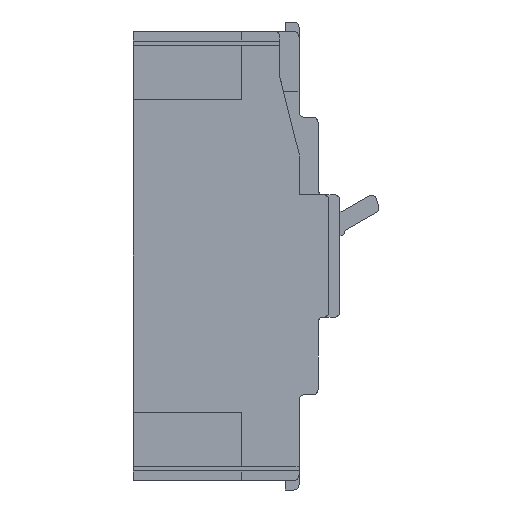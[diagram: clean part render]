
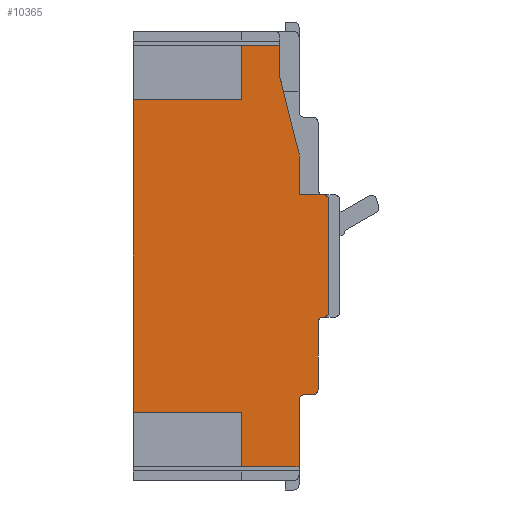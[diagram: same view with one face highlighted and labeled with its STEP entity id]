
A CAD part, left-side view. The second image highlights one B-rep face of the part: STEP entity #10365.
In plain terms, the highlighted planar face has unit normal (-1, 0, 0).
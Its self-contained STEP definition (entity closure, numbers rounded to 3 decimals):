
#44=CARTESIAN_POINT('',(-52.5,-39.5,-20.5));
#45=DIRECTION('',(-1.,0.,0.));
#46=DIRECTION('',(0.,0.,-1.));
#47=AXIS2_PLACEMENT_3D('',#44,#45,#46);
#49=DIRECTION('',(0.,0.,-1.));
#50=VECTOR('',#49,24.5);
#51=CARTESIAN_POINT('',(-52.5,-37.5,-24.5));
#52=LINE('',#51,#50);
#53=CARTESIAN_POINT('',(-52.5,-35.5,-49.));
#54=DIRECTION('',(-1.,0.,0.));
#55=DIRECTION('',(0.,0.,-1.));
#56=AXIS2_PLACEMENT_3D('',#53,#54,#55);
#58=DIRECTION('',(0.,1.,0.));
#59=VECTOR('',#58,3.);
#60=CARTESIAN_POINT('',(-52.5,-35.5,-51.));
#61=LINE('',#60,#59);
#62=DIRECTION('',(0.,0.,-1.));
#63=VECTOR('',#62,24.5);
#64=CARTESIAN_POINT('',(-52.5,-30.5,-53.));
#65=LINE('',#64,#63);
#66=DIRECTION('',(0.,-1.,0.));
#67=VECTOR('',#66,21.);
#68=CARTESIAN_POINT('',(-52.5,-9.5,-77.5));
#69=LINE('',#68,#67);
#70=DIRECTION('',(0.,0.,1.));
#71=VECTOR('',#70,20.);
#72=CARTESIAN_POINT('',(-52.5,-9.5,-77.5));
#73=LINE('',#72,#71);
#74=DIRECTION('',(0.,-1.,0.));
#75=VECTOR('',#74,40.);
#76=CARTESIAN_POINT('',(-52.5,30.5,-57.5));
#77=LINE('',#76,#75);
#78=DIRECTION('',(0.,0.,1.));
#79=VECTOR('',#78,115.);
#80=CARTESIAN_POINT('',(-52.5,30.5,-57.5));
#81=LINE('',#80,#79);
#82=DIRECTION('',(0.,-1.,0.));
#83=VECTOR('',#82,40.);
#84=CARTESIAN_POINT('',(-52.5,30.5,57.5));
#85=LINE('',#84,#83);
#86=DIRECTION('',(0.,0.,-1.));
#87=VECTOR('',#86,20.);
#88=CARTESIAN_POINT('',(-52.5,-9.5,77.5));
#89=LINE('',#88,#87);
#90=DIRECTION('',(0.,-1.,0.));
#91=VECTOR('',#90,14.);
#92=CARTESIAN_POINT('',(-52.5,-9.5,77.5));
#93=LINE('',#92,#91);
#94=DIRECTION('',(0.,0.,-1.));
#95=VECTOR('',#94,12.);
#96=CARTESIAN_POINT('',(-52.5,-23.5,77.5));
#97=LINE('',#96,#95);
#98=DIRECTION('',(0.,0.243,0.97));
#99=VECTOR('',#98,28.862);
#100=CARTESIAN_POINT('',(-52.5,-30.5,37.5));
#101=LINE('',#100,#99);
#102=DIRECTION('',(0.,0.,1.));
#103=VECTOR('',#102,15.);
#104=CARTESIAN_POINT('',(-52.5,-30.5,22.5));
#105=LINE('',#104,#103);
#106=CARTESIAN_POINT('',(-52.5,-39.5,20.5));
#107=DIRECTION('',(-1.,0.,0.));
#108=DIRECTION('',(0.,-1.,0.));
#109=AXIS2_PLACEMENT_3D('',#106,#107,#108);
#111=DIRECTION('',(0.,0.,-1.));
#112=VECTOR('',#111,41.);
#113=CARTESIAN_POINT('',(-52.5,-41.5,20.5));
#114=LINE('',#113,#112);
#2234=DIRECTION('',(0.,1.,0.));
#2235=VECTOR('',#2234,9.);
#2236=CARTESIAN_POINT('',(-52.5,-39.5,22.5));
#2237=LINE('',#2236,#2235);
#6873=CARTESIAN_POINT('',(-52.5,-39.5,-24.5));
#6874=DIRECTION('',(1.,0.,0.));
#6875=DIRECTION('',(0.,1.,0.));
#6876=AXIS2_PLACEMENT_3D('',#6873,#6874,#6875);
#7126=CARTESIAN_POINT('',(-52.5,-32.5,-53.));
#7127=DIRECTION('',(1.,0.,0.));
#7128=DIRECTION('',(0.,1.,0.));
#7129=AXIS2_PLACEMENT_3D('',#7126,#7127,#7128);
#8874=CARTESIAN_POINT('',(-52.5,-30.5,-77.5));
#8875=VERTEX_POINT('',#8874);
#9210=CARTESIAN_POINT('',(-52.5,-30.5,22.5));
#9211=VERTEX_POINT('',#9210);
#9212=CARTESIAN_POINT('',(-52.5,-30.5,37.5));
#9213=VERTEX_POINT('',#9212);
#9214=CARTESIAN_POINT('',(-52.5,-23.5,65.5));
#9216=VERTEX_POINT('',#9214);
#9218=CARTESIAN_POINT('',(-52.5,-23.5,77.5));
#9219=VERTEX_POINT('',#9218);
#9434=CARTESIAN_POINT('',(-52.5,-9.5,-57.5));
#9435=VERTEX_POINT('',#9434);
#9436=CARTESIAN_POINT('',(-52.5,-9.5,57.5));
#9437=VERTEX_POINT('',#9436);
#9438=CARTESIAN_POINT('',(-52.5,30.5,-57.5));
#9439=VERTEX_POINT('',#9438);
#9444=CARTESIAN_POINT('',(-52.5,-9.5,-77.5));
#9445=VERTEX_POINT('',#9444);
#9450=CARTESIAN_POINT('',(-52.5,-9.5,77.5));
#9451=VERTEX_POINT('',#9450);
#9452=CARTESIAN_POINT('',(-52.5,30.5,57.5));
#9453=VERTEX_POINT('',#9452);
#9582=CARTESIAN_POINT('',(-52.5,-37.5,-24.5));
#9584=VERTEX_POINT('',#9582);
#9698=CARTESIAN_POINT('',(-52.5,-30.5,-53.));
#9700=VERTEX_POINT('',#9698);
#9702=CARTESIAN_POINT('',(-52.5,-32.5,-51.));
#9704=VERTEX_POINT('',#9702);
#9714=CARTESIAN_POINT('',(-52.5,-39.5,-22.5));
#9715=CARTESIAN_POINT('',(-52.5,-41.5,-20.5));
#9716=VERTEX_POINT('',#9714);
#9717=VERTEX_POINT('',#9715);
#9730=CARTESIAN_POINT('',(-52.5,-41.5,20.5));
#9732=VERTEX_POINT('',#9730);
#9734=CARTESIAN_POINT('',(-52.5,-39.5,22.5));
#9735=VERTEX_POINT('',#9734);
#9758=CARTESIAN_POINT('',(-52.5,-35.5,-51.));
#9759=CARTESIAN_POINT('',(-52.5,-37.5,-49.));
#9760=VERTEX_POINT('',#9758);
#9761=VERTEX_POINT('',#9759);
#10318=CARTESIAN_POINT('',(-52.5,0.,0.));
#10319=DIRECTION('',(1.,0.,0.));
#10320=DIRECTION('',(0.,-1.,0.));
#10321=AXIS2_PLACEMENT_3D('',#10318,#10319,#10320);
#10322=PLANE('',#10321);
#10324=ORIENTED_EDGE('',*,*,#10323,.F.);
#10326=ORIENTED_EDGE('',*,*,#10325,.F.);
#10328=ORIENTED_EDGE('',*,*,#10327,.T.);
#10330=ORIENTED_EDGE('',*,*,#10329,.F.);
#10332=ORIENTED_EDGE('',*,*,#10331,.T.);
#10334=ORIENTED_EDGE('',*,*,#10333,.F.);
#10336=ORIENTED_EDGE('',*,*,#10335,.T.);
#10338=ORIENTED_EDGE('',*,*,#10337,.F.);
#10340=ORIENTED_EDGE('',*,*,#10339,.T.);
#10342=ORIENTED_EDGE('',*,*,#10341,.F.);
#10344=ORIENTED_EDGE('',*,*,#10343,.T.);
#10346=ORIENTED_EDGE('',*,*,#10345,.T.);
#10348=ORIENTED_EDGE('',*,*,#10347,.F.);
#10350=ORIENTED_EDGE('',*,*,#10349,.T.);
#10352=ORIENTED_EDGE('',*,*,#10351,.T.);
#10354=ORIENTED_EDGE('',*,*,#10353,.F.);
#10356=ORIENTED_EDGE('',*,*,#10355,.F.);
#10358=ORIENTED_EDGE('',*,*,#10357,.F.);
#10360=ORIENTED_EDGE('',*,*,#10359,.F.);
#10362=ORIENTED_EDGE('',*,*,#10361,.T.);
#10363=EDGE_LOOP('',(#10324,#10326,#10328,#10330,#10332,#10334,#10336,#10338,
#10340,#10342,#10344,#10346,#10348,#10350,#10352,#10354,#10356,#10358,#10360,
#10362));
#10364=FACE_OUTER_BOUND('',#10363,.F.);
#48=CIRCLE('',#47,2.);
#57=CIRCLE('',#56,2.);
#110=CIRCLE('',#109,2.);
#6877=CIRCLE('',#6876,2.);
#7130=CIRCLE('',#7129,2.);
#10323=EDGE_CURVE('',#9716,#9717,#48,.T.);
#10325=EDGE_CURVE('',#9584,#9716,#6877,.T.);
#10327=EDGE_CURVE('',#9584,#9761,#52,.T.);
#10329=EDGE_CURVE('',#9760,#9761,#57,.T.);
#10331=EDGE_CURVE('',#9760,#9704,#61,.T.);
#10333=EDGE_CURVE('',#9700,#9704,#7130,.T.);
#10335=EDGE_CURVE('',#9700,#8875,#65,.T.);
#10337=EDGE_CURVE('',#9445,#8875,#69,.T.);
#10339=EDGE_CURVE('',#9445,#9435,#73,.T.);
#10341=EDGE_CURVE('',#9439,#9435,#77,.T.);
#10343=EDGE_CURVE('',#9439,#9453,#81,.T.);
#10345=EDGE_CURVE('',#9453,#9437,#85,.T.);
#10347=EDGE_CURVE('',#9451,#9437,#89,.T.);
#10349=EDGE_CURVE('',#9451,#9219,#93,.T.);
#10351=EDGE_CURVE('',#9219,#9216,#97,.T.);
#10353=EDGE_CURVE('',#9213,#9216,#101,.T.);
#10355=EDGE_CURVE('',#9211,#9213,#105,.T.);
#10357=EDGE_CURVE('',#9735,#9211,#2237,.T.);
#10359=EDGE_CURVE('',#9732,#9735,#110,.T.);
#10361=EDGE_CURVE('',#9732,#9717,#114,.T.);
#10365=ADVANCED_FACE('',(#10364),#10322,.F.);
